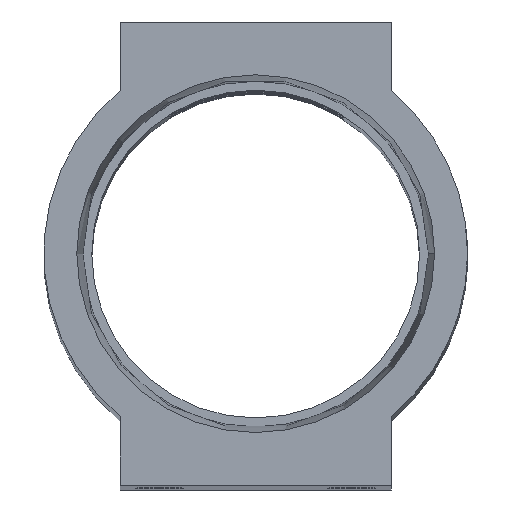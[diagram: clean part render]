
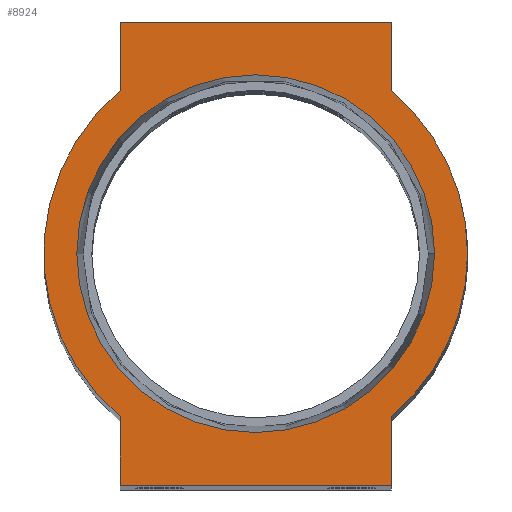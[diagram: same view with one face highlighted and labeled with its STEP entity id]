
A CAD part, top view. The second image highlights one B-rep face of the part: STEP entity #8924.
In plain terms, the highlighted planar face has unit normal (0, 0, 1).
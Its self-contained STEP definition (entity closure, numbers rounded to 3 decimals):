
#236 = EDGE_CURVE ( 'NONE', #4371, #9113, #2846, .T. ) ;
#280 = CARTESIAN_POINT ( 'NONE',  ( -12., -14.407, 0. ) ) ;
#304 = DIRECTION ( 'NONE',  ( 0., 0., 1. ) ) ;
#472 = EDGE_CURVE ( 'NONE', #9113, #11011, #10706, .T. ) ;
#559 = EDGE_CURVE ( 'NONE', #4175, #645, #5691, .T. ) ;
#645 = VERTEX_POINT ( 'NONE', #11512 ) ;
#719 = LINE ( 'NONE', #10351, #4599 ) ;
#883 = CIRCLE ( 'NONE', #5712, 15.827 ) ;
#908 = CARTESIAN_POINT ( 'NONE',  ( -12., 20.5, 0. ) ) ;
#1003 = DIRECTION ( 'NONE',  ( 0., 0., 1. ) ) ;
#1024 = EDGE_LOOP ( 'NONE', ( #11454, #11319 ) ) ;
#1093 = VECTOR ( 'NONE', #4913, 1000. ) ;
#1097 = DIRECTION ( 'NONE',  ( 0., 0., 1. ) ) ;
#1135 = EDGE_CURVE ( 'NONE', #1324, #8249, #883, .T. ) ;
#1195 = CARTESIAN_POINT ( 'NONE',  ( -15.827, 0., 0. ) ) ;
#1324 = VERTEX_POINT ( 'NONE', #5396 ) ;
#1327 = CARTESIAN_POINT ( 'NONE',  ( 12., 20.5, 0. ) ) ;
#1936 = DIRECTION ( 'NONE',  ( 1., 0., 0. ) ) ;
#2029 = DIRECTION ( 'NONE',  ( 1., 0., 0. ) ) ;
#2035 = CARTESIAN_POINT ( 'NONE',  ( 12., -20.5, 0. ) ) ;
#2715 = AXIS2_PLACEMENT_3D ( 'NONE', #10568, #1003, #2029 ) ;
#2846 = LINE ( 'NONE', #11427, #11129 ) ;
#2947 = DIRECTION ( 'NONE',  ( 1., 0., 0. ) ) ;
#2988 = CARTESIAN_POINT ( 'NONE',  ( 0., 0., 0. ) ) ;
#3002 = CARTESIAN_POINT ( 'NONE',  ( -12., -20.5, 0. ) ) ;
#3008 = EDGE_CURVE ( 'NONE', #8249, #1324, #3644, .T. ) ;
#3450 = EDGE_CURVE ( 'NONE', #6059, #9367, #10880, .T. ) ;
#3484 = CARTESIAN_POINT ( 'NONE',  ( -12., 20.5, 0. ) ) ;
#3615 = ORIENTED_EDGE ( 'NONE', *, *, #3450, .T. ) ;
#3644 = CIRCLE ( 'NONE', #9263, 15.827 ) ;
#3785 = DIRECTION ( 'NONE',  ( 0., 1., 0. ) ) ;
#3838 = DIRECTION ( 'NONE',  ( 1., 0., 0. ) ) ;
#3946 = LINE ( 'NONE', #3002, #9494 ) ;
#4091 = EDGE_CURVE ( 'NONE', #10997, #4371, #3946, .T. ) ;
#4160 = ORIENTED_EDGE ( 'NONE', *, *, #10825, .T. ) ;
#4175 = VERTEX_POINT ( 'NONE', #3484 ) ;
#4371 = VERTEX_POINT ( 'NONE', #2035 ) ;
#4501 = DIRECTION ( 'NONE',  ( -1., 0., 0. ) ) ;
#4599 = VECTOR ( 'NONE', #4501, 1000. ) ;
#4913 = DIRECTION ( 'NONE',  ( 0., -1., 0. ) ) ;
#5080 = FACE_BOUND ( 'NONE', #1024, .T. ) ;
#5122 = CIRCLE ( 'NONE', #11735, 18.75 ) ;
#5173 = CARTESIAN_POINT ( 'NONE',  ( 12., 20.5, 0. ) ) ;
#5184 = CARTESIAN_POINT ( 'NONE',  ( 0., 0., 0. ) ) ;
#5251 = CARTESIAN_POINT ( 'NONE',  ( 0., 0., 0. ) ) ;
#5396 = CARTESIAN_POINT ( 'NONE',  ( 15.827, 0., 0. ) ) ;
#5691 = LINE ( 'NONE', #908, #11139 ) ;
#5712 = AXIS2_PLACEMENT_3D ( 'NONE', #10671, #11543, #3838 ) ;
#6059 = VERTEX_POINT ( 'NONE', #11957 ) ;
#6063 = FACE_OUTER_BOUND ( 'NONE', #7265, .T. ) ;
#6097 = AXIS2_PLACEMENT_3D ( 'NONE', #10842, #304, #9911 ) ;
#6418 = ORIENTED_EDGE ( 'NONE', *, *, #559, .T. ) ;
#6617 = DIRECTION ( 'NONE',  ( 0., -1., 0. ) ) ;
#6952 = DIRECTION ( 'NONE',  ( 0., 0., 1. ) ) ;
#6975 = EDGE_CURVE ( 'NONE', #12424, #10997, #7803, .T. ) ;
#7079 = EDGE_CURVE ( 'NONE', #11011, #6059, #12121, .T. ) ;
#7213 = ORIENTED_EDGE ( 'NONE', *, *, #472, .T. ) ;
#7265 = EDGE_LOOP ( 'NONE', ( #3615, #11155, #6418, #4160, #10368, #12239, #11000, #7213, #9466 ) ) ;
#7505 = CARTESIAN_POINT ( 'NONE',  ( 18.75, 0., 0. ) ) ;
#7803 = LINE ( 'NONE', #9582, #1093 ) ;
#8249 = VERTEX_POINT ( 'NONE', #1195 ) ;
#8924 = ADVANCED_FACE ( 'NONE', ( #5080, #6063 ), #8934, .T. ) ;
#8934 = PLANE ( 'NONE',  #6097 ) ;
#9035 = DIRECTION ( 'NONE',  ( 1., 0., 0. ) ) ;
#9080 = CARTESIAN_POINT ( 'NONE',  ( 12., -14.407, 0. ) ) ;
#9108 = DIRECTION ( 'NONE',  ( 0., 0., 1. ) ) ;
#9113 = VERTEX_POINT ( 'NONE', #9080 ) ;
#9263 = AXIS2_PLACEMENT_3D ( 'NONE', #5184, #6952, #9035 ) ;
#9367 = VERTEX_POINT ( 'NONE', #1327 ) ;
#9466 = ORIENTED_EDGE ( 'NONE', *, *, #7079, .T. ) ;
#9494 = VECTOR ( 'NONE', #2947, 1000. ) ;
#9582 = CARTESIAN_POINT ( 'NONE',  ( -12., -20.5, 0. ) ) ;
#9884 = DIRECTION ( 'NONE',  ( 0., 1., 0. ) ) ;
#9911 = DIRECTION ( 'NONE',  ( 1., 0., 0. ) ) ;
#10098 = DIRECTION ( 'NONE',  ( 1., 0., 0. ) ) ;
#10334 = CARTESIAN_POINT ( 'NONE',  ( -12., -20.5, 0. ) ) ;
#10351 = CARTESIAN_POINT ( 'NONE',  ( -12., 20.5, 0. ) ) ;
#10368 = ORIENTED_EDGE ( 'NONE', *, *, #6975, .T. ) ;
#10568 = CARTESIAN_POINT ( 'NONE',  ( 0., 0., 0. ) ) ;
#10671 = CARTESIAN_POINT ( 'NONE',  ( 0., 0., 0. ) ) ;
#10706 = CIRCLE ( 'NONE', #11499, 18.75 ) ;
#10825 = EDGE_CURVE ( 'NONE', #645, #12424, #5122, .T. ) ;
#10842 = CARTESIAN_POINT ( 'NONE',  ( 0., 0., 0. ) ) ;
#10880 = LINE ( 'NONE', #5173, #12261 ) ;
#10997 = VERTEX_POINT ( 'NONE', #10334 ) ;
#11000 = ORIENTED_EDGE ( 'NONE', *, *, #236, .T. ) ;
#11011 = VERTEX_POINT ( 'NONE', #7505 ) ;
#11129 = VECTOR ( 'NONE', #3785, 1000. ) ;
#11139 = VECTOR ( 'NONE', #6617, 1000. ) ;
#11155 = ORIENTED_EDGE ( 'NONE', *, *, #12117, .T. ) ;
#11319 = ORIENTED_EDGE ( 'NONE', *, *, #3008, .F. ) ;
#11427 = CARTESIAN_POINT ( 'NONE',  ( 12., -20.5, 0. ) ) ;
#11454 = ORIENTED_EDGE ( 'NONE', *, *, #1135, .F. ) ;
#11499 = AXIS2_PLACEMENT_3D ( 'NONE', #5251, #9108, #10098 ) ;
#11512 = CARTESIAN_POINT ( 'NONE',  ( -12., 14.407, 0. ) ) ;
#11543 = DIRECTION ( 'NONE',  ( 0., 0., 1. ) ) ;
#11735 = AXIS2_PLACEMENT_3D ( 'NONE', #2988, #1097, #1936 ) ;
#11957 = CARTESIAN_POINT ( 'NONE',  ( 12., 14.407, 0. ) ) ;
#12117 = EDGE_CURVE ( 'NONE', #9367, #4175, #719, .T. ) ;
#12121 = CIRCLE ( 'NONE', #2715, 18.75 ) ;
#12239 = ORIENTED_EDGE ( 'NONE', *, *, #4091, .T. ) ;
#12261 = VECTOR ( 'NONE', #9884, 1000. ) ;
#12424 = VERTEX_POINT ( 'NONE', #280 ) ;
